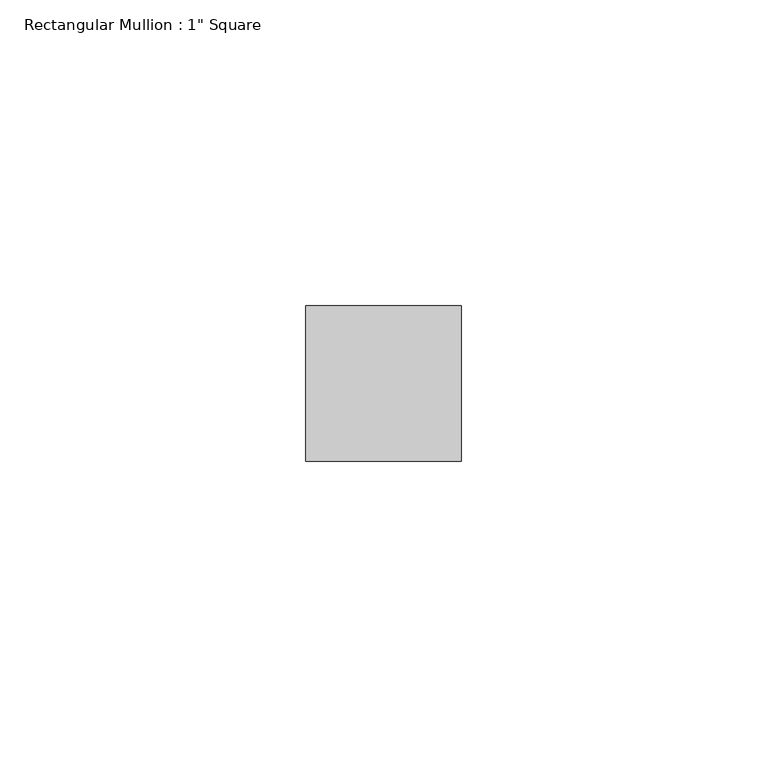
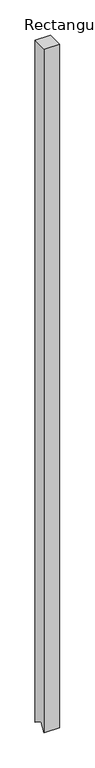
"""IFC4 building model written with IfcOpenShell, lengths in millimetres: member geometry."""

from ifc_helpers import new_model, si_unit, frame, origin, place, context, project, spatial, polyline, outline, extrude, source, transform, mapped, element, save


def member_1ddaab60(model_context):
    return source(origin(), model_context, "Body", "SweptSolid", [
        extrude(outline(polyline([(-12.7, 0.0), (12.7, 0.0), (12.7, -1178.5358057), (-3.480121, -1167.6929478), (-12.7, -1181.4511986), (-12.7, 0.0)])), frame((-25.4, 0.0, 0.0), z_axis=(1.0, 0.0, 0.0), x_axis=(0.0, 1.0, 0.0)), (0.0, 0.0, 1.0), 25.4),
    ])


if __name__ == "__main__":
    model = new_model("IFC4")
    model_context = context("Model", 3, world=origin())
    ifc_project = project(units=[si_unit("LENGTHUNIT", "METRE", prefix="MILLI")], contexts=[model_context])
    site = spatial("IfcSite", under=ifc_project)
    building = spatial("IfcBuilding", under=site)
    placement = place(None, origin())
    member_shape = member_1ddaab60(model_context)
    element("IfcMember", 1, ObjectType="Rectangular Mullion : 1\" Square", at=placement, inside=building, context=model_context, shape_type="MappedRepresentation", body=[
        mapped(member_shape, transform((0.0, 0.0, 0.0), x_axis=(1.0, 0.0, 0.0), y_axis=(0.0, 1.0, 0.0), z_axis=(0.0, 0.0, 1.0))),
    ])
    save(model, "model.ifc")
